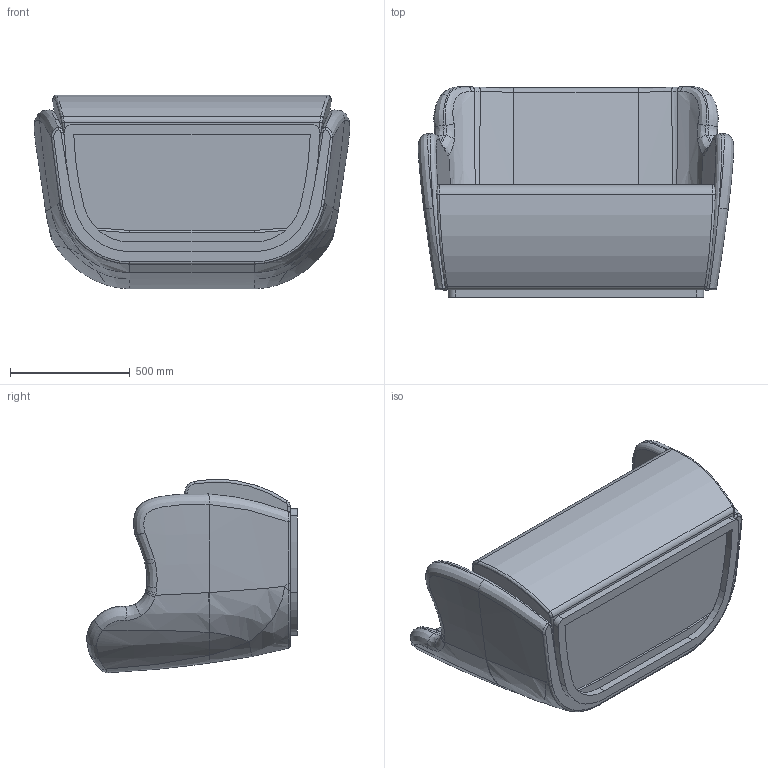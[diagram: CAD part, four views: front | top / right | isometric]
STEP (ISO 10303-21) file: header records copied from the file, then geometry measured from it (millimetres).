
FILE_DESCRIPTION (( 'STEP AP203' ), '1' );
FILE_NAME ('GIBSON PLUS low back - 2-seater (simple).STEP', '2026-07-14T07:41:40', ( '' ), ( '' ), 'SwSTEP 2.0', 'SolidWorks 2026', '' );
FILE_SCHEMA (( 'CONFIG_CONTROL_DESIGN' ));
Length unit declared in the file: millimetre
Products named in the file (1): GIBSON PLUS low back - 2-seater (simple)
Bounding box: 1317.55 x 880.01 x 808.59 mm (x, y, z)
Volume: 354961092.6 mm3; surface area: 7135919.8 mm2
Topology: 3 solids, 3 shells, 199 faces, 508 edges, 315 vertices
Faces by surface type: bspline 154, cylinder 28, plane 17
Entity records: 26315 total; most frequent: CARTESIAN_POINT 22688, ORIENTED_EDGE 1012, EDGE_CURVE 506, B_SPLINE_CURVE_WITH_KNOTS 343, DIRECTION 316, VERTEX_POINT 315, EDGE_LOOP 203, FACE_OUTER_BOUND 199
